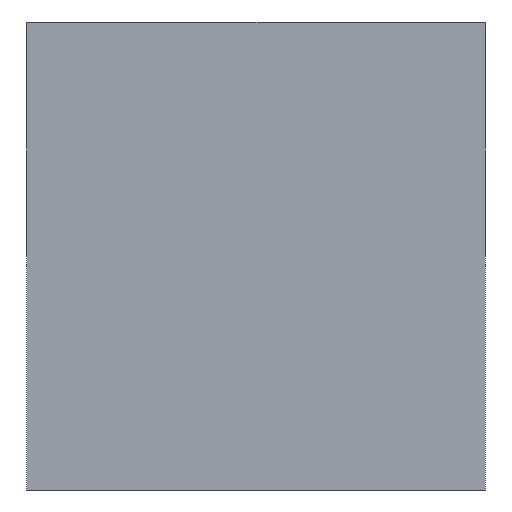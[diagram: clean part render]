
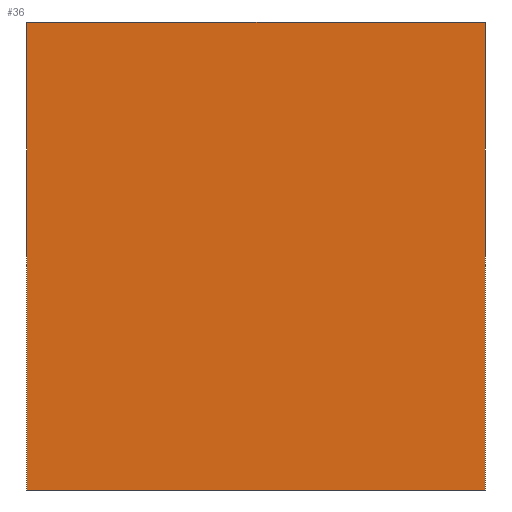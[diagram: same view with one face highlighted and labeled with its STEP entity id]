
A CAD part, left-side view. The second image highlights one B-rep face of the part: STEP entity #36.
In plain terms, the highlighted planar face has unit normal (-1, 0, 0).
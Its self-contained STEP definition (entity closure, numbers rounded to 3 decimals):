
#36 = ADVANCED_FACE('',(#37),#51,.F.);
#37 = FACE_BOUND('',#38,.F.);
#38 = EDGE_LOOP('',(#39,#74,#102,#130));
#39 = ORIENTED_EDGE('',*,*,#40,.F.);
#40 = EDGE_CURVE('',#41,#43,#45,.T.);
#41 = VERTEX_POINT('',#42);
#42 = CARTESIAN_POINT('',(0.,0.,0.));
#43 = VERTEX_POINT('',#44);
#44 = CARTESIAN_POINT('',(0.,0.,4.88));
#45 = SURFACE_CURVE('',#46,(#50,#62),.PCURVE_S1.);
#46 = LINE('',#47,#48);
#47 = CARTESIAN_POINT('',(0.,0.,0.));
#48 = VECTOR('',#49,1.);
#49 = DIRECTION('',(0.,0.,1.));
#50 = PCURVE('',#51,#56);
#51 = PLANE('',#52);
#52 = AXIS2_PLACEMENT_3D('',#53,#54,#55);
#53 = CARTESIAN_POINT('',(0.,0.,0.));
#54 = DIRECTION('',(1.,0.,-0.));
#55 = DIRECTION('',(0.,0.,1.));
#56 = DEFINITIONAL_REPRESENTATION('',(#57),#61);
#57 = LINE('',#58,#59);
#58 = CARTESIAN_POINT('',(0.,0.));
#59 = VECTOR('',#60,1.);
#60 = DIRECTION('',(1.,0.));
#61 = ( GEOMETRIC_REPRESENTATION_CONTEXT(2) 
PARAMETRIC_REPRESENTATION_CONTEXT() REPRESENTATION_CONTEXT('2D SPACE',''
  ) );
#62 = PCURVE('',#63,#68);
#63 = PLANE('',#64);
#64 = AXIS2_PLACEMENT_3D('',#65,#66,#67);
#65 = CARTESIAN_POINT('',(0.,0.,0.));
#66 = DIRECTION('',(-0.,1.,0.));
#67 = DIRECTION('',(0.,0.,1.));
#68 = DEFINITIONAL_REPRESENTATION('',(#69),#73);
#69 = LINE('',#70,#71);
#70 = CARTESIAN_POINT('',(0.,0.));
#71 = VECTOR('',#72,1.);
#72 = DIRECTION('',(1.,0.));
#73 = ( GEOMETRIC_REPRESENTATION_CONTEXT(2) 
PARAMETRIC_REPRESENTATION_CONTEXT() REPRESENTATION_CONTEXT('2D SPACE',''
  ) );
#74 = ORIENTED_EDGE('',*,*,#75,.T.);
#75 = EDGE_CURVE('',#41,#76,#78,.T.);
#76 = VERTEX_POINT('',#77);
#77 = CARTESIAN_POINT('',(0.,4.78,0.));
#78 = SURFACE_CURVE('',#79,(#83,#90),.PCURVE_S1.);
#79 = LINE('',#80,#81);
#80 = CARTESIAN_POINT('',(0.,0.,0.));
#81 = VECTOR('',#82,1.);
#82 = DIRECTION('',(-0.,1.,0.));
#83 = PCURVE('',#51,#84);
#84 = DEFINITIONAL_REPRESENTATION('',(#85),#89);
#85 = LINE('',#86,#87);
#86 = CARTESIAN_POINT('',(0.,0.));
#87 = VECTOR('',#88,1.);
#88 = DIRECTION('',(0.,-1.));
#89 = ( GEOMETRIC_REPRESENTATION_CONTEXT(2) 
PARAMETRIC_REPRESENTATION_CONTEXT() REPRESENTATION_CONTEXT('2D SPACE',''
  ) );
#90 = PCURVE('',#91,#96);
#91 = PLANE('',#92);
#92 = AXIS2_PLACEMENT_3D('',#93,#94,#95);
#93 = CARTESIAN_POINT('',(0.,0.,0.));
#94 = DIRECTION('',(0.,0.,1.));
#95 = DIRECTION('',(1.,0.,-0.));
#96 = DEFINITIONAL_REPRESENTATION('',(#97),#101);
#97 = LINE('',#98,#99);
#98 = CARTESIAN_POINT('',(0.,0.));
#99 = VECTOR('',#100,1.);
#100 = DIRECTION('',(0.,1.));
#101 = ( GEOMETRIC_REPRESENTATION_CONTEXT(2) 
PARAMETRIC_REPRESENTATION_CONTEXT() REPRESENTATION_CONTEXT('2D SPACE',''
  ) );
#102 = ORIENTED_EDGE('',*,*,#103,.T.);
#103 = EDGE_CURVE('',#76,#104,#106,.T.);
#104 = VERTEX_POINT('',#105);
#105 = CARTESIAN_POINT('',(0.,4.78,4.88));
#106 = SURFACE_CURVE('',#107,(#111,#118),.PCURVE_S1.);
#107 = LINE('',#108,#109);
#108 = CARTESIAN_POINT('',(0.,4.78,0.));
#109 = VECTOR('',#110,1.);
#110 = DIRECTION('',(0.,0.,1.));
#111 = PCURVE('',#51,#112);
#112 = DEFINITIONAL_REPRESENTATION('',(#113),#117);
#113 = LINE('',#114,#115);
#114 = CARTESIAN_POINT('',(0.,-4.78));
#115 = VECTOR('',#116,1.);
#116 = DIRECTION('',(1.,0.));
#117 = ( GEOMETRIC_REPRESENTATION_CONTEXT(2) 
PARAMETRIC_REPRESENTATION_CONTEXT() REPRESENTATION_CONTEXT('2D SPACE',''
  ) );
#118 = PCURVE('',#119,#124);
#119 = PLANE('',#120);
#120 = AXIS2_PLACEMENT_3D('',#121,#122,#123);
#121 = CARTESIAN_POINT('',(0.,4.78,0.));
#122 = DIRECTION('',(-0.,1.,0.));
#123 = DIRECTION('',(0.,0.,1.));
#124 = DEFINITIONAL_REPRESENTATION('',(#125),#129);
#125 = LINE('',#126,#127);
#126 = CARTESIAN_POINT('',(0.,0.));
#127 = VECTOR('',#128,1.);
#128 = DIRECTION('',(1.,0.));
#129 = ( GEOMETRIC_REPRESENTATION_CONTEXT(2) 
PARAMETRIC_REPRESENTATION_CONTEXT() REPRESENTATION_CONTEXT('2D SPACE',''
  ) );
#130 = ORIENTED_EDGE('',*,*,#131,.F.);
#131 = EDGE_CURVE('',#43,#104,#132,.T.);
#132 = SURFACE_CURVE('',#133,(#137,#144),.PCURVE_S1.);
#133 = LINE('',#134,#135);
#134 = CARTESIAN_POINT('',(0.,0.,4.88));
#135 = VECTOR('',#136,1.);
#136 = DIRECTION('',(-0.,1.,0.));
#137 = PCURVE('',#51,#138);
#138 = DEFINITIONAL_REPRESENTATION('',(#139),#143);
#139 = LINE('',#140,#141);
#140 = CARTESIAN_POINT('',(4.88,0.));
#141 = VECTOR('',#142,1.);
#142 = DIRECTION('',(0.,-1.));
#143 = ( GEOMETRIC_REPRESENTATION_CONTEXT(2) 
PARAMETRIC_REPRESENTATION_CONTEXT() REPRESENTATION_CONTEXT('2D SPACE',''
  ) );
#144 = PCURVE('',#145,#150);
#145 = PLANE('',#146);
#146 = AXIS2_PLACEMENT_3D('',#147,#148,#149);
#147 = CARTESIAN_POINT('',(0.,0.,4.88));
#148 = DIRECTION('',(0.,0.,1.));
#149 = DIRECTION('',(1.,0.,-0.));
#150 = DEFINITIONAL_REPRESENTATION('',(#151),#155);
#151 = LINE('',#152,#153);
#152 = CARTESIAN_POINT('',(0.,0.));
#153 = VECTOR('',#154,1.);
#154 = DIRECTION('',(0.,1.));
#155 = ( GEOMETRIC_REPRESENTATION_CONTEXT(2) 
PARAMETRIC_REPRESENTATION_CONTEXT() REPRESENTATION_CONTEXT('2D SPACE',''
  ) );
